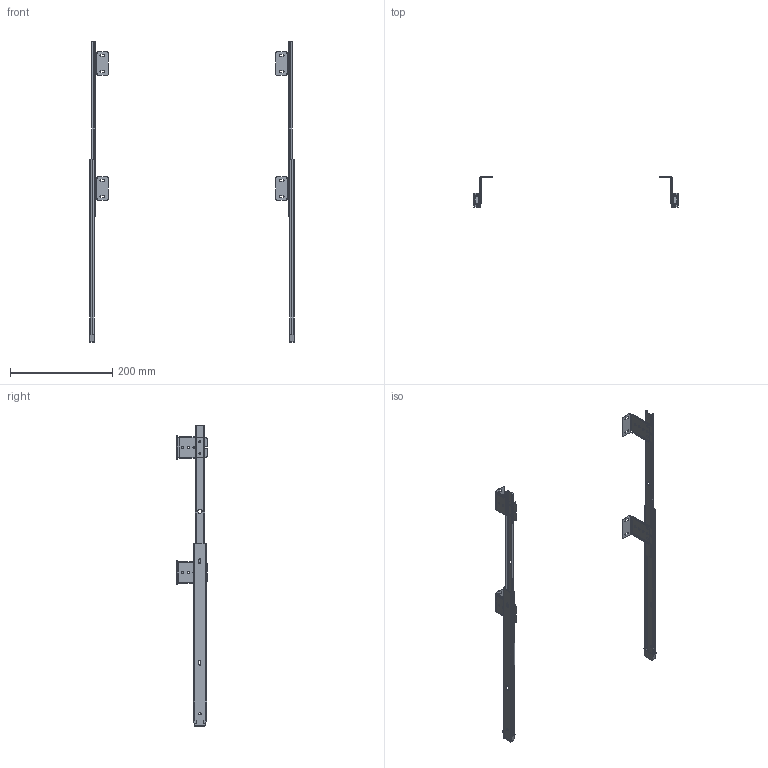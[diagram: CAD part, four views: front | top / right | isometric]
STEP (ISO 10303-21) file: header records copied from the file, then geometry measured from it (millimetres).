
FILE_DESCRIPTION(/* description */ (''),/* implementation_level */ '2;1');
FILE_NAME(/* name */ 'D:\$Workingspace\Designs\Katalog\Cadsoft\GTV Prowadnice\Prowadnice GTV_bryły 3D\PK-0-000-027_58_wysunieta.stp',/* time_stamp */ '2016-11-22T08:38:03+01:00',/* author */ ('tomaszw'),/* organization */ (''),/* preprocessor_version */ 'ST-DEVELOPER v16.1',/* originating_system */ 'Autodesk Inventor 2016',/* authorisation */ '');
FILE_SCHEMA (('AUTOMOTIVE_DESIGN { 1 0 10303 214 3 1 1 }'));
Length unit declared in the file: millimetre
Products named in the file (5): PK-0-000-027_1_1; PK-0-000-027_3_1; PK-0-000-027_2P; PK-0-000-027_2L; PK-0-000-027
Assembly tree (8 placements, depth 2):
  PK-0-000-027
    PK-0-000-027_1_1  x2
    PK-0-000-027_3_1  x4
    PK-0-000-027_2P
    PK-0-000-027_2L
Bounding box: 400 x 59 x 590 mm (x, y, z)
Volume: 70814.8 mm3; surface area: 144235.3 mm2
Topology: 14 solids, 14 shells, 424 faces, 1192 edges, 804 vertices
Faces by surface type: plane 244, cylinder 172, bspline 8
Full cylindrical faces by diameter (mm): 3.242 x4, 4 x16, 4.4 x16, 4.5 x2, 8.3 x2
Entity records: 8394 total; most frequent: CARTESIAN_POINT 1574, DIRECTION 1358, ORIENTED_EDGE 1284, EDGE_CURVE 642, AXIS2_PLACEMENT_3D 474, VERTEX_POINT 450, LINE 410, VECTOR 410
